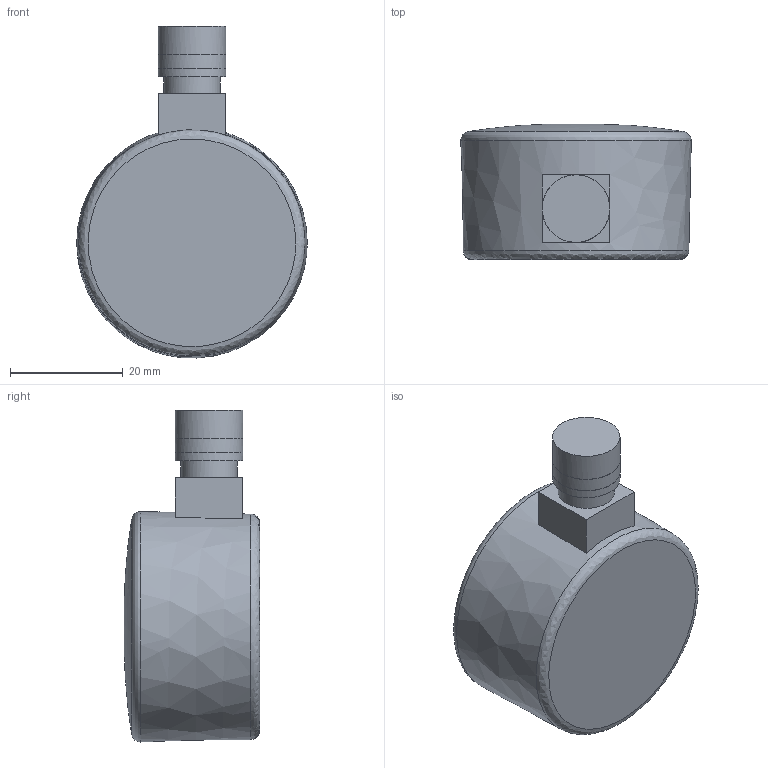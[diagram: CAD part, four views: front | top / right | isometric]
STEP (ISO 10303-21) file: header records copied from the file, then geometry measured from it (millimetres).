
FILE_DESCRIPTION((''),'2;1');
FILE_NAME('U:\Users\a.heinl\DG200_10Manometer.stp', '2013-05-13T11:33:47',('User'),('SDRC'),'I-DEAS Master Series 9','UNIX', 'Yes');
FILE_SCHEMA(('AUTOMOTIVE_DESIGN { 1 0 10303 214 1 1 1 1 }'));
Length unit declared in the file: millimetre
Products named in the file (1): 11847000(277870)
Bounding box: 40.94 x 24.04 x 58.95 mm (x, y, z)
Volume: 32468.3 mm3; surface area: 6437.5 mm2
Topology: 2 solids, 2 shells, 22 faces, 39 edges, 25 vertices
Faces by surface type: bspline 22
Entity records: 691 total; most frequent: CARTESIAN_POINT 398, ORIENTED_EDGE 76, EDGE_CURVE 38, EDGE_LOOP 29, VERTEX_POINT 25, FACE_OUTER_BOUND 22, ADVANCED_FACE 22, QUASI_UNIFORM_CURVE 13
